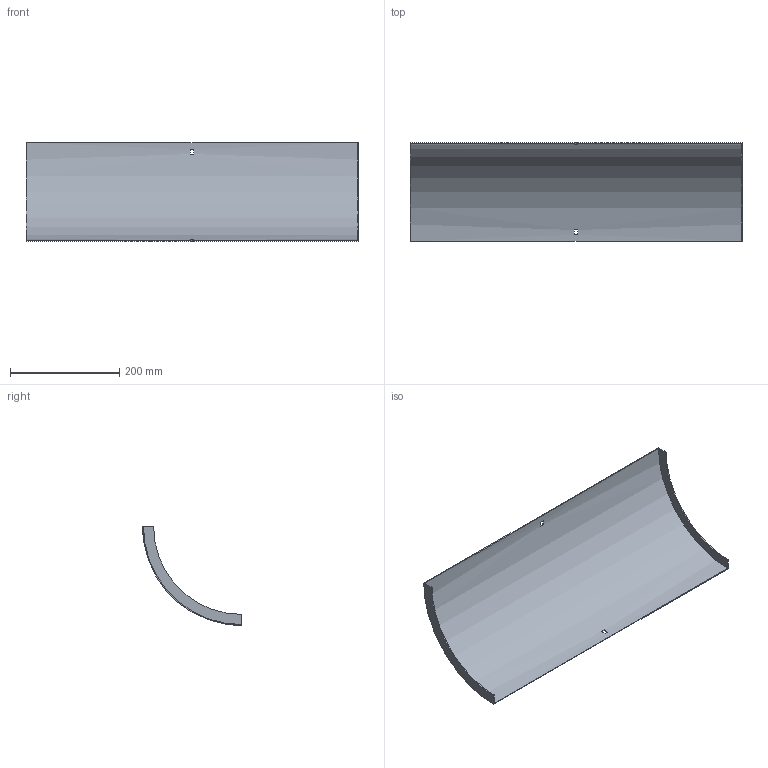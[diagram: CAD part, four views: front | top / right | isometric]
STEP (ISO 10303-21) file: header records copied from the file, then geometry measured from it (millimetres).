
FILE_DESCRIPTION (( 'STEP AP214' ), '1' );
FILE_NAME ('33N1C600.step', '2025-02-21T09:19:20', ( '' ), ( '' ), 'SwSTEP 2.0', 'SolidWorks 2023', '' );
FILE_SCHEMA (( 'AUTOMOTIVE_DESIGN' ));
Length unit declared in the file: millimetre
Products named in the file (1): 33N1C600
Bounding box: 607 x 180.5 x 180.5 mm (x, y, z)
Volume: 271702.7 mm3; surface area: 365055.5 mm2
Topology: 1 solids, 1 shells, 18 faces, 48 edges, 32 vertices
Faces by surface type: plane 14, cylinder 4
Entity records: 599 total; most frequent: DIRECTION 102, CARTESIAN_POINT 99, ORIENTED_EDGE 96, EDGE_CURVE 48, AXIS2_PLACEMENT_3D 35, LINE 32, VERTEX_POINT 32, VECTOR 32
